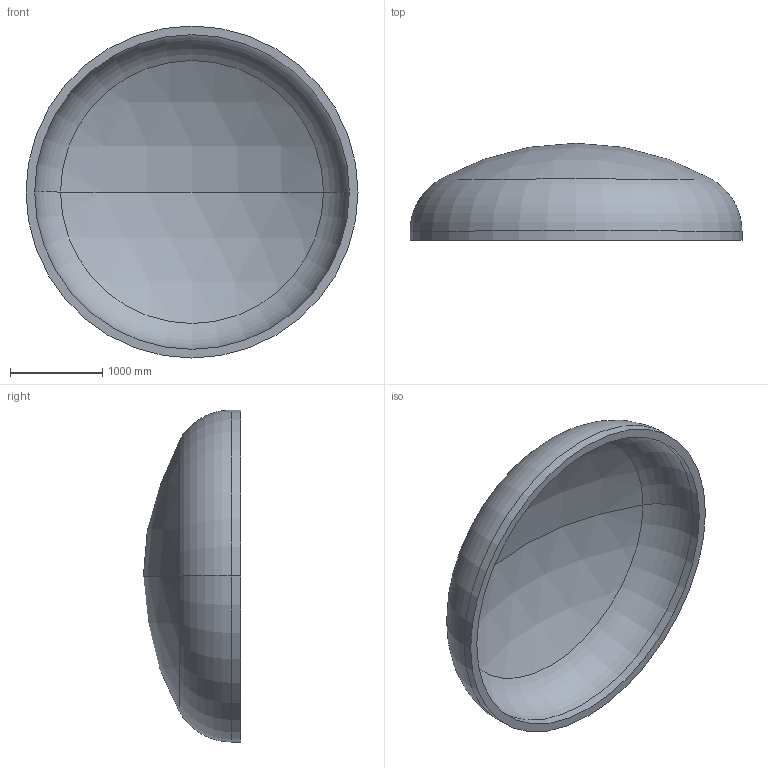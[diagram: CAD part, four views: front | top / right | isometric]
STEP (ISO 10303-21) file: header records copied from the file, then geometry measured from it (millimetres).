
FILE_DESCRIPTION (( 'STEP AP203' ), '1' );
FILE_NAME ('DIN 28013 Korbbogenform_-_Boden DIN 28013 - 3600 x 100 - I - s=94.step', '2016-07-01T20:46:56', ( '' ), ( '' ), 'SwSTEP 2.0', 'SolidWorks 2013', '' );
FILE_SCHEMA (( 'CONFIG_CONTROL_DESIGN' ));
Length unit declared in the file: millimetre
Products named in the file (1): DIN 28013 Korbbogenform_-_Boden DIN 28013 - 3600 x 100 - I - s=94
Bounding box: 3600 x 1053.9 x 3600 mm (x, y, z)
Volume: 1384394338.8 mm3; surface area: 30509050.6 mm2
Topology: 1 solids, 1 shells, 13 faces, 24 edges, 14 vertices
Faces by surface type: torus 4, cylinder 4, sphere 4, plane 1
Entity records: 407 total; most frequent: DIRECTION 72, CARTESIAN_POINT 52, ORIENTED_EDGE 48, AXIS2_PLACEMENT_3D 34, EDGE_CURVE 24, CIRCLE 20, VERTEX_POINT 14, EDGE_LOOP 14
